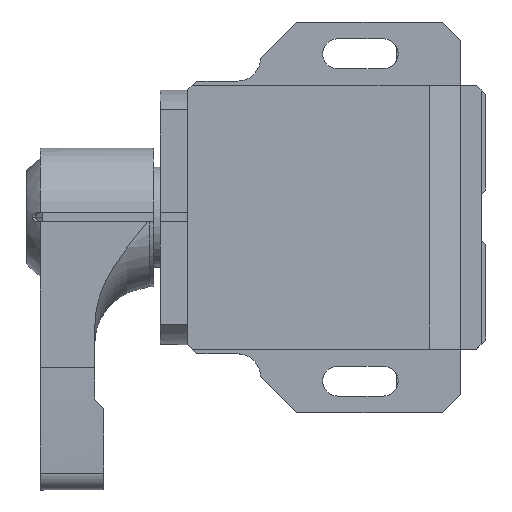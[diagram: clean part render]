
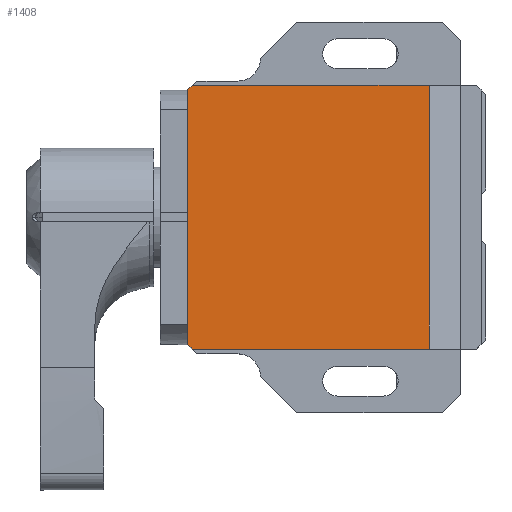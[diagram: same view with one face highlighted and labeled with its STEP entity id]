
A CAD part, top view. The second image highlights one B-rep face of the part: STEP entity #1408.
In plain terms, the highlighted planar face has unit normal (0, 0, 1) as drawn and (0, 0, -1) by its records, which use the part's own axes.
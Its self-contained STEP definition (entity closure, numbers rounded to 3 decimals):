
#358 = VECTOR ( 'NONE', #7360, 1000. ) ;
#505 = CARTESIAN_POINT ( 'NONE',  ( -60., 28., -36. ) ) ;
#587 = VERTEX_POINT ( 'NONE', #1876 ) ;
#614 = CARTESIAN_POINT ( 'NONE',  ( -6.869, 29., -36. ) ) ;
#1038 = EDGE_CURVE ( 'NONE', #7782, #3872, #6619, .T. ) ;
#1276 = DIRECTION ( 'NONE',  ( 0., 0., 1. ) ) ;
#1321 = PLANE ( 'NONE',  #1693 ) ;
#1359 = VERTEX_POINT ( 'NONE', #7752 ) ;
#1396 = ORIENTED_EDGE ( 'NONE', *, *, #7841, .F. ) ;
#1408 = ADVANCED_FACE ( 'NONE', ( #6990 ), #1321, .F. ) ;
#1654 = LINE ( 'NONE', #7500, #6849 ) ;
#1693 = AXIS2_PLACEMENT_3D ( 'NONE', #7081, #1276, #3814 ) ;
#1778 = DIRECTION ( 'NONE',  ( -0.707, -0.707, 0. ) ) ;
#1876 = CARTESIAN_POINT ( 'NONE',  ( -59., 29., -36. ) ) ;
#1940 = VECTOR ( 'NONE', #2422, 1000. ) ;
#2112 = VECTOR ( 'NONE', #7843, 1000. ) ;
#2328 = LINE ( 'NONE', #7585, #2486 ) ;
#2401 = EDGE_LOOP ( 'NONE', ( #4777, #7482, #4252, #1396, #4974, #5177 ) ) ;
#2422 = DIRECTION ( 'NONE',  ( 0., -1., 0. ) ) ;
#2486 = VECTOR ( 'NONE', #6158, 1000. ) ;
#3149 = VERTEX_POINT ( 'NONE', #6435 ) ;
#3495 = EDGE_CURVE ( 'NONE', #3936, #3149, #8176, .T. ) ;
#3814 = DIRECTION ( 'NONE',  ( 0., 1., 0. ) ) ;
#3872 = VERTEX_POINT ( 'NONE', #5577 ) ;
#3936 = VERTEX_POINT ( 'NONE', #505 ) ;
#4252 = ORIENTED_EDGE ( 'NONE', *, *, #5864, .F. ) ;
#4728 = CARTESIAN_POINT ( 'NONE',  ( 0., 29., -36. ) ) ;
#4735 = LINE ( 'NONE', #7285, #5765 ) ;
#4777 = ORIENTED_EDGE ( 'NONE', *, *, #8217, .F. ) ;
#4974 = ORIENTED_EDGE ( 'NONE', *, *, #3495, .F. ) ;
#5177 = ORIENTED_EDGE ( 'NONE', *, *, #6714, .F. ) ;
#5351 = LINE ( 'NONE', #4728, #358 ) ;
#5577 = CARTESIAN_POINT ( 'NONE',  ( -6.869, -29., -36. ) ) ;
#5765 = VECTOR ( 'NONE', #7793, 1000. ) ;
#5864 = EDGE_CURVE ( 'NONE', #1359, #3872, #4735, .T. ) ;
#5910 = CARTESIAN_POINT ( 'NONE',  ( -6.869, -29., -36. ) ) ;
#6158 = DIRECTION ( 'NONE',  ( 0.707, -0.707, 0. ) ) ;
#6171 = CARTESIAN_POINT ( 'NONE',  ( -60., -29., -36. ) ) ;
#6435 = CARTESIAN_POINT ( 'NONE',  ( -60., -28., -36. ) ) ;
#6619 = LINE ( 'NONE', #5910, #2112 ) ;
#6714 = EDGE_CURVE ( 'NONE', #587, #3936, #1654, .T. ) ;
#6849 = VECTOR ( 'NONE', #1778, 1000. ) ;
#6990 = FACE_OUTER_BOUND ( 'NONE', #2401, .T. ) ;
#7081 = CARTESIAN_POINT ( 'NONE',  ( 0., -29., -36. ) ) ;
#7285 = CARTESIAN_POINT ( 'NONE',  ( 0., -29., -36. ) ) ;
#7360 = DIRECTION ( 'NONE',  ( -1., 0., 0. ) ) ;
#7482 = ORIENTED_EDGE ( 'NONE', *, *, #1038, .T. ) ;
#7500 = CARTESIAN_POINT ( 'NONE',  ( -58.5, 29.5, -36. ) ) ;
#7585 = CARTESIAN_POINT ( 'NONE',  ( -29.5, -58.5, -36. ) ) ;
#7752 = CARTESIAN_POINT ( 'NONE',  ( -59., -29., -36. ) ) ;
#7782 = VERTEX_POINT ( 'NONE', #614 ) ;
#7793 = DIRECTION ( 'NONE',  ( 1., 0., 0. ) ) ;
#7841 = EDGE_CURVE ( 'NONE', #3149, #1359, #2328, .T. ) ;
#7843 = DIRECTION ( 'NONE',  ( 0., -1., 0. ) ) ;
#8176 = LINE ( 'NONE', #6171, #1940 ) ;
#8217 = EDGE_CURVE ( 'NONE', #7782, #587, #5351, .T. ) ;
